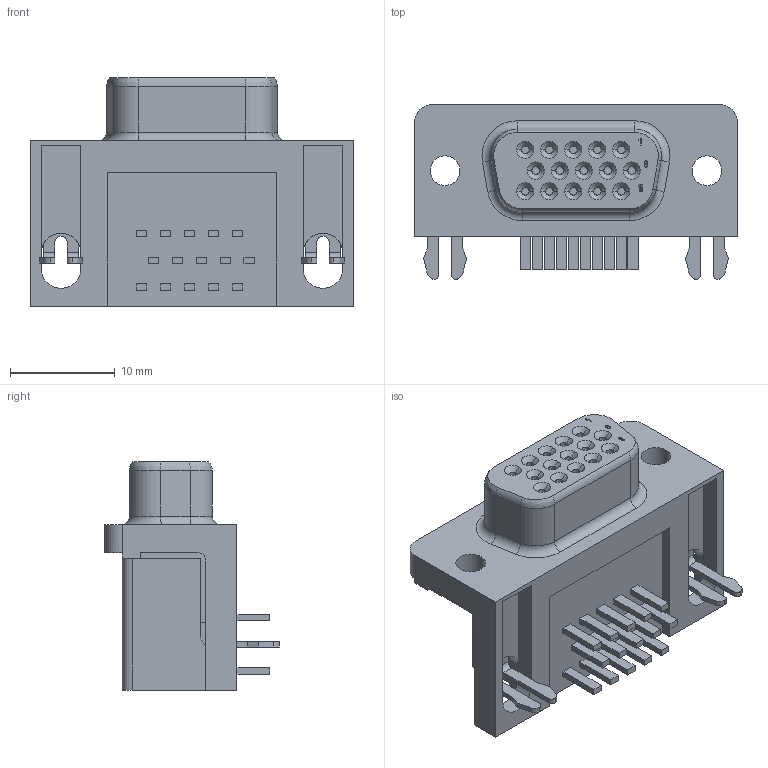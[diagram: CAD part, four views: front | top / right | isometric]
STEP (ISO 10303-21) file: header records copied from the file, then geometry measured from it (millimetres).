
FILE_DESCRIPTION((''),'2;1');
FILE_NAME('C-2311763-3','2022-08-04T11:58:55',('workeradm'),('TE Connectivity Ltd.'),'CREO PARAMETRIC BY PTC INC, 2021072','CREO PARAMETRIC BY PTC INC, 2021072','');
FILE_SCHEMA(('AUTOMOTIVE_DESIGN { 1 0 10303 214 1 1 1 1 }'));
Length unit declared in the file: millimetre
Products named in the file (1): C-2311763-3
Bounding box: 30.8 x 16.65 x 21.8 mm (x, y, z)
Volume: 4264.6 mm3; surface area: 2826.7 mm2
Topology: 1 solids, 1 shells, 369 faces, 951 edges, 618 vertices
Faces by surface type: plane 255, cylinder 76, cone 30, bspline 4, torus 4
Entity records: 11221 total; most frequent: CARTESIAN_POINT 2010, ORIENTED_EDGE 1902, DIRECTION 1871, EDGE_CURVE 951, VECTOR 753, LINE 753, VERTEX_POINT 618, AXIS2_PLACEMENT_3D 559
